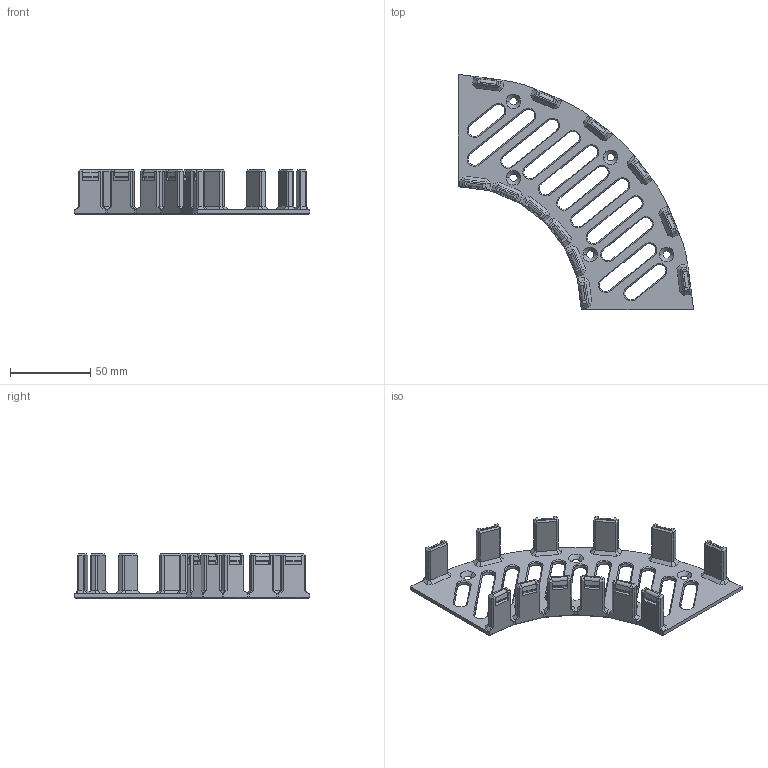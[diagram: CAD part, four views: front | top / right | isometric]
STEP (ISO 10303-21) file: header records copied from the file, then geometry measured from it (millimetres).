
FILE_DESCRIPTION (( 'STEP AP203' ), '1' );
FILE_NAME ('tray__corner--screwMount--25mm.STEP', '2024-02-16T03:20:15', ( '' ), ( '' ), 'SwSTEP 2.0', 'SolidWorks 2020', '' );
FILE_SCHEMA (( 'CONFIG_CONTROL_DESIGN' ));
Length unit declared in the file: millimetre
Products named in the file (1): tray__corner--screwMount--25mm
Bounding box: 146.58 x 146.57 x 28 mm (x, y, z)
Volume: 46453.3 mm3; surface area: 32215.3 mm2
Topology: 1 solids, 1 shells, 623 faces, 1498 edges, 877 vertices
Faces by surface type: plane 472, cone 96, cylinder 55
Entity records: 17600 total; most frequent: CARTESIAN_POINT 2999, ORIENTED_EDGE 2996, DIRECTION 2973, EDGE_CURVE 1498, VECTOR 1271, LINE 1271, VERTEX_POINT 877, AXIS2_PLACEMENT_3D 851
